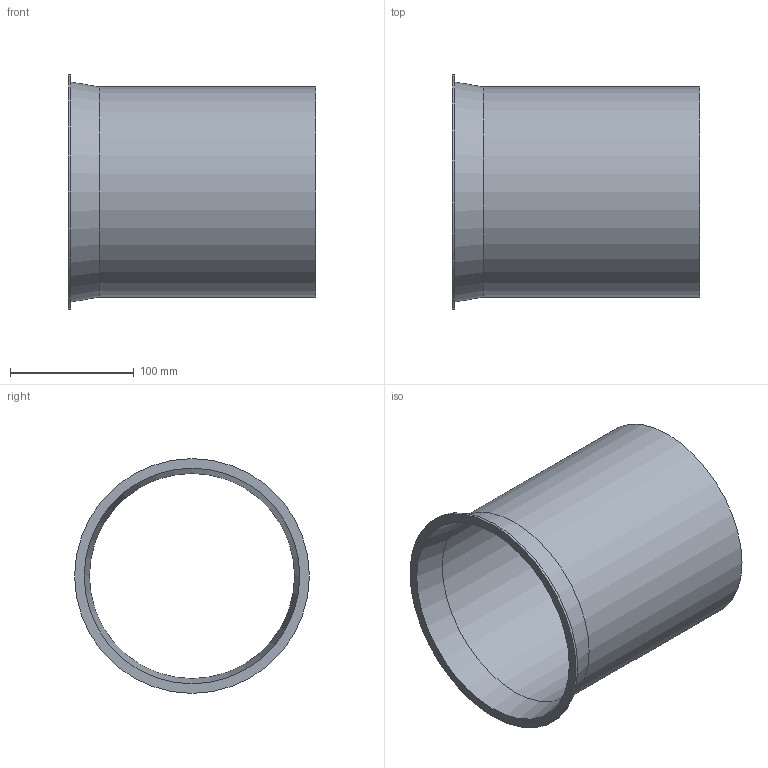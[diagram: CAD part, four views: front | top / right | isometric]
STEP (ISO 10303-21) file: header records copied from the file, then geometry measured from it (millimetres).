
FILE_DESCRIPTION((''),'2;1');
FILE_NAME('U:\Wolfgang\Marcel-3D\fertig\Kapitel 1\1711008.stp','2010-05-31T11:14:16',('TK2'),(''),'Autodesk Inventor 2010','Autodesk Inventor 2010','');
FILE_SCHEMA(('AUTOMOTIVE_DESIGN { 1 0 10303 214 1 1 1 1 }'));
Length unit declared in the file: millimetre
Products named in the file (1): 1711008
Bounding box: 200 x 190 x 190 mm (x, y, z)
Volume: 218940.1 mm3; surface area: 221178.6 mm2
Topology: 1 solids, 1 shells, 8 faces, 14 edges, 9 vertices
Faces by surface type: cylinder 3, plane 3, cone 2
Full cylindrical faces by diameter (mm): 166 x1, 170 x1, 190 x1
Entity records: 194 total; most frequent: DIRECTION 34, CARTESIAN_POINT 25, AXIS2_PLACEMENT_3D 17, ORIENTED_EDGE 16, EDGE_LOOP 16, VERTEX_POINT 8, CIRCLE 8, EDGE_CURVE 8
